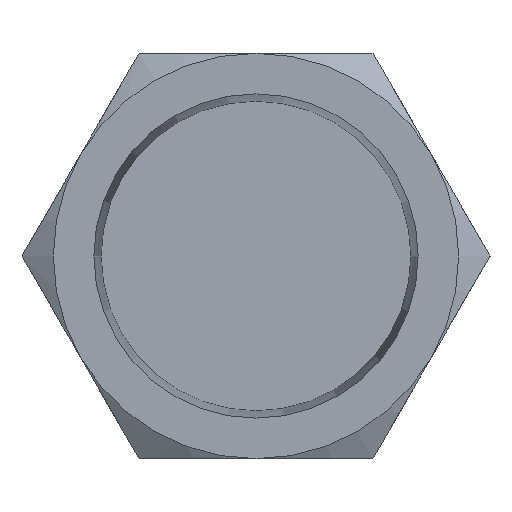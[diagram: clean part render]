
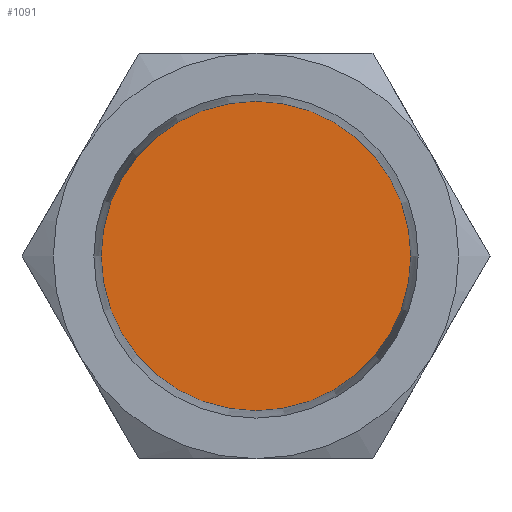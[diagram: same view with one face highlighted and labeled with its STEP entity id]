
A CAD part, front view. The second image highlights one B-rep face of the part: STEP entity #1091.
In plain terms, the highlighted planar face has unit normal (0, -1, 0).
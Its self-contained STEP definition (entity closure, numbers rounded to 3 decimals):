
#1075=CARTESIAN_POINT('',(-4.012,12.,0.0));
#1076=DIRECTION('',(0.0,-1.0,0.0));
#1077=DIRECTION('',(0.0,0.0,-1.0));
#1078=AXIS2_PLACEMENT_3D('',#1075,#1076,#1077);
#1079=PLANE('',#1078);
#1080=CARTESIAN_POINT('',(-8.025,12.,0.0));
#1081=VERTEX_POINT('',#1080);
#1082=CARTESIAN_POINT('',(0.,12.,0.0));
#1083=DIRECTION('',(0.0,1.0,0.0));
#1084=DIRECTION('',(-1.0,0.0,0.0));
#1085=AXIS2_PLACEMENT_3D('',#1082,#1083,#1084);
#1086=CIRCLE('',#1085,8.025);
#1087=EDGE_CURVE('',#1081,#1081,#1086,.T.);
#1088=ORIENTED_EDGE('',*,*,#1087,.F.);
#1089=EDGE_LOOP('',(#1088));
#1090=FACE_OUTER_BOUND('',#1089,.T.);
#1091=ADVANCED_FACE('',(#1090),#1079,.T.);
